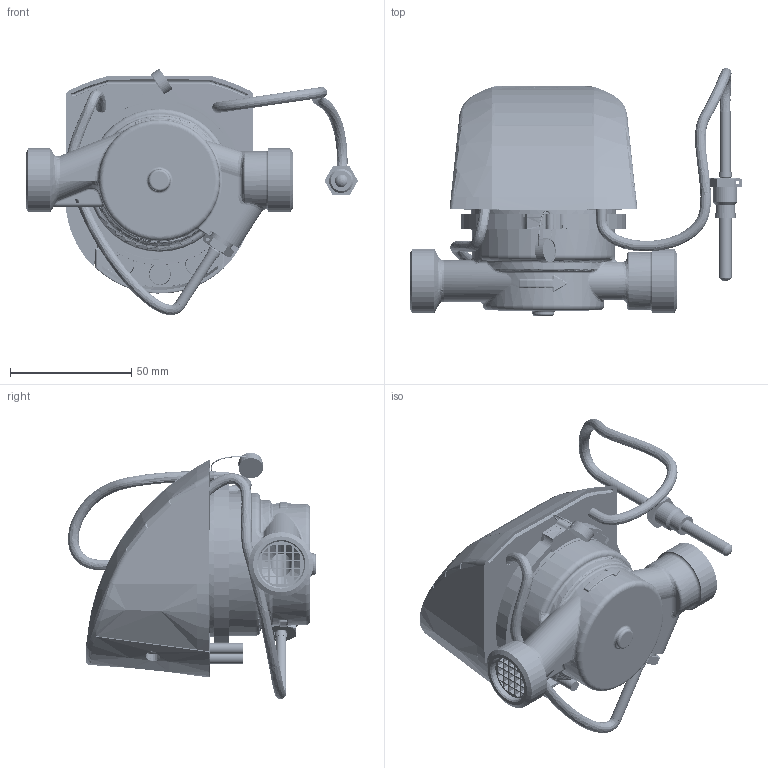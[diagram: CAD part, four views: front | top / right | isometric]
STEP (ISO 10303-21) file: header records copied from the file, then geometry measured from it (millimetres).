
FILE_DESCRIPTION (( 'STEP AP214' ), '1' );
FILE_NAME ('ELF2-JS90-1-TI.STEP', '2025-08-01T14:25:26', ( '' ), ( '' ), 'SwSTEP 2.0', 'SolidWorks 2019', '' );
FILE_SCHEMA (( 'AUTOMOTIVE_DESIGN' ));
Length unit declared in the file: millimetre
Products named in the file (1): ELF2-JS90-1-TI
Bounding box: 136.94 x 102.29 x 101.61 mm (x, y, z)
Surface area: 142217.6 mm2 (no closed solid volume)
Topology: 0 solids, 45 shells, 4814 faces, 12487 edges, 7834 vertices
Faces by surface type: plane 1932, bspline 913, cylinder 697, cone 687, torus 396, sphere 189
Entity records: 257365 total; most frequent: CARTESIAN_POINT 97597, ORIENTED_EDGE 24726, DIRECTION 18328, EDGE_CURVE 12364, VERTEX_POINT 7823, AXIS2_PLACEMENT_3D 6728, EDGE_LOOP 5222, VECTOR 4872
